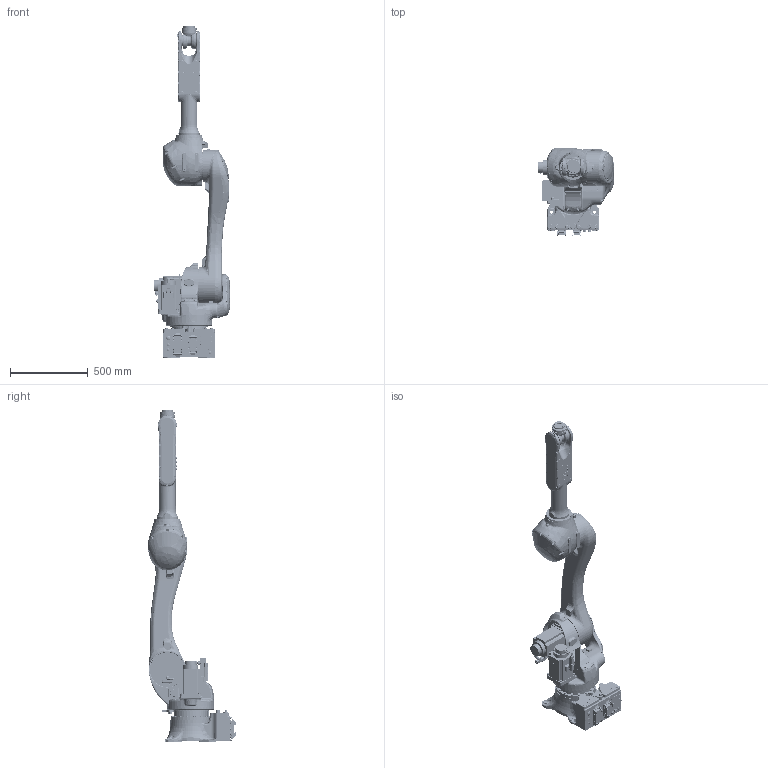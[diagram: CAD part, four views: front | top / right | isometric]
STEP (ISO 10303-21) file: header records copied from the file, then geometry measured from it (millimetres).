
FILE_DESCRIPTION(('CATIA V5 STEP Exchange'),'2;1');
FILE_NAME('D:\モデリング\☆☆☆STEP\RS\RS020N\RS020N-A001_RARAS_200319\軽量化\Part\修正\RS020N-A001.stp','2020-06-24T08:45:59+00:00',('none'),('none'),'CATIA Version 5-6 Release 2016 SP6 HF14','CATIA V5 STEP AP203','none');
FILE_SCHEMA(('CONFIG_CONTROL_DESIGN'));
Length unit declared in the file: millimetre
Products named in the file (1): RS020N-A001
Assembly tree (7 placements, depth 2):
  RS020N-A001
    #57
    #60306
    #133892
    #172782
    #203463
    #256317
    #271273
Bounding box: 484.5 x 567.25 x 2135 mm (x, y, z)
Volume: 84506750.8 mm3; surface area: 3125514.2 mm2
Topology: 10 solids, 18 shells, 6351 faces, 15640 edges, 9573 vertices
Faces by surface type: cylinder 2497, plane 1885, bspline 1085, torus 371, cone 347, sphere 144, extrusion 13, revolution 9
Entity records: 275880 total; most frequent: CARTESIAN_POINT 143906, ORIENTED_EDGE 30562, DIRECTION 19774, EDGE_CURVE 15281, AXIS2_PLACEMENT_3D 9769, VERTEX_POINT 9573, EDGE_LOOP 7038, ADVANCED_FACE 6351
